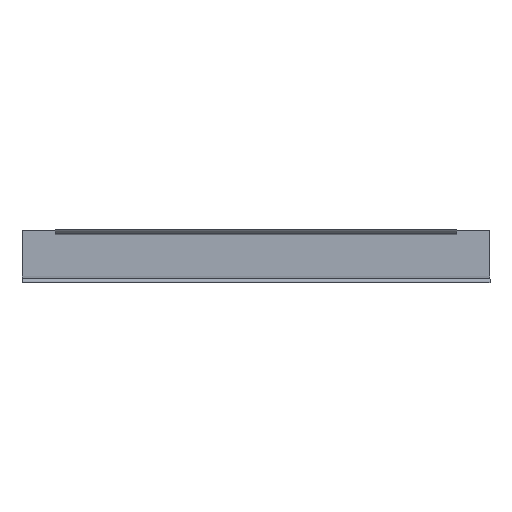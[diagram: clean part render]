
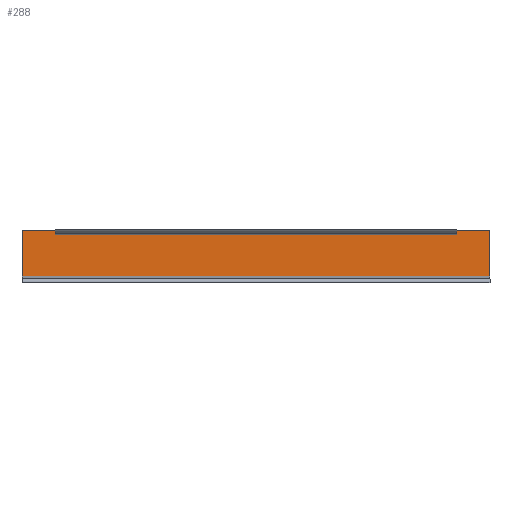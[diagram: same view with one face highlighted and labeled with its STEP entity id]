
A CAD part, left-side view. The second image highlights one B-rep face of the part: STEP entity #288.
In plain terms, the highlighted planar face has unit normal (-1, 0, 0).
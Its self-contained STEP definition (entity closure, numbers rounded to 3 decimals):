
#20 = DIRECTION ( 'NONE',  ( 0., 0., -1. ) ) ;
#21 = CARTESIAN_POINT ( 'NONE',  ( 6.024, 479.5, -8.71 ) ) ;
#29 = DIRECTION ( 'NONE',  ( 0., 0., 1. ) ) ;
#30 = CARTESIAN_POINT ( 'NONE',  ( 6.024, 34., -2.932 ) ) ;
#45 = CARTESIAN_POINT ( 'NONE',  ( 6.024, 34., -4.106 ) ) ;
#54 = VERTEX_POINT ( 'NONE', #264 ) ;
#56 = CARTESIAN_POINT ( 'NONE',  ( 6.024, 479.5, -4.106 ) ) ;
#58 = CARTESIAN_POINT ( 'NONE',  ( 6.024, 445.5, -8.71 ) ) ;
#66 = VERTEX_POINT ( 'NONE', #56 ) ;
#68 = CARTESIAN_POINT ( 'NONE',  ( 6.024, 479.5, -8.71 ) ) ;
#70 = CARTESIAN_POINT ( 'NONE',  ( 6.024, 479.5, -51.31 ) ) ;
#78 = DIRECTION ( 'NONE',  ( 0., -1., 0. ) ) ;
#82 = CARTESIAN_POINT ( 'NONE',  ( 6.024, 0., -4.106 ) ) ;
#84 = CARTESIAN_POINT ( 'NONE',  ( 6.024, 34., -8.71 ) ) ;
#118 = CARTESIAN_POINT ( 'NONE',  ( 6.024, 479.5, -9.925 ) ) ;
#133 = PLANE ( 'NONE',  #572 ) ;
#140 = DIRECTION ( 'NONE',  ( 0., 0., -1. ) ) ;
#151 = VERTEX_POINT ( 'NONE', #45 ) ;
#154 = DIRECTION ( 'NONE',  ( -1., 0., 0. ) ) ;
#175 = VERTEX_POINT ( 'NONE', #176 ) ;
#176 = CARTESIAN_POINT ( 'NONE',  ( 6.024, 445.5, -4.106 ) ) ;
#182 = VERTEX_POINT ( 'NONE', #70 ) ;
#212 = VECTOR ( 'NONE', #508, 1000. ) ;
#223 = LINE ( 'NONE', #512, #212 ) ;
#224 = VECTOR ( 'NONE', #539, 1000. ) ;
#225 = LINE ( 'NONE', #537, #226 ) ;
#226 = VECTOR ( 'NONE', #536, 1000. ) ;
#229 = LINE ( 'NONE', #541, #224 ) ;
#258 = VERTEX_POINT ( 'NONE', #58 ) ;
#262 = VERTEX_POINT ( 'NONE', #82 ) ;
#264 = CARTESIAN_POINT ( 'NONE',  ( 6.024, 0., -51.31 ) ) ;
#270 = VERTEX_POINT ( 'NONE', #84 ) ;
#288 = ADVANCED_FACE ( 'NONE', ( #440 ), #133, .T. ) ;
#297 = EDGE_LOOP ( 'NONE', ( #298, #360, #370, #350, #364, #355, #372, #371 ) ) ;
#298 = ORIENTED_EDGE ( 'NONE', *, *, #596, .F. ) ;
#350 = ORIENTED_EDGE ( 'NONE', *, *, #562, .F. ) ;
#355 = ORIENTED_EDGE ( 'NONE', *, *, #593, .T. ) ;
#360 = ORIENTED_EDGE ( 'NONE', *, *, #607, .T. ) ;
#364 = ORIENTED_EDGE ( 'NONE', *, *, #612, .F. ) ;
#370 = ORIENTED_EDGE ( 'NONE', *, *, #575, .F. ) ;
#371 = ORIENTED_EDGE ( 'NONE', *, *, #608, .T. ) ;
#372 = ORIENTED_EDGE ( 'NONE', *, *, #580, .T. ) ;
#440 = FACE_OUTER_BOUND ( 'NONE', #297, .T. ) ;
#453 = LINE ( 'NONE', #68, #460 ) ;
#460 = VECTOR ( 'NONE', #78, 1000. ) ;
#475 = LINE ( 'NONE', #30, #476 ) ;
#476 = VECTOR ( 'NONE', #29, 1000. ) ;
#479 = LINE ( 'NONE', #21, #480 ) ;
#480 = VECTOR ( 'NONE', #20, 1000. ) ;
#494 = LINE ( 'NONE', #530, #495 ) ;
#495 = VECTOR ( 'NONE', #529, 1000. ) ;
#500 = LINE ( 'NONE', #523, #501 ) ;
#501 = VECTOR ( 'NONE', #522, 1000. ) ;
#508 = DIRECTION ( 'NONE',  ( 0., 0., -1. ) ) ;
#512 = CARTESIAN_POINT ( 'NONE',  ( 6.024, 445.5, -2.932 ) ) ;
#522 = DIRECTION ( 'NONE',  ( 0., 0., -1. ) ) ;
#523 = CARTESIAN_POINT ( 'NONE',  ( 6.024, 0., -9.925 ) ) ;
#529 = DIRECTION ( 'NONE',  ( 0., 1., 0. ) ) ;
#530 = CARTESIAN_POINT ( 'NONE',  ( 6.024, 479.5, -4.106 ) ) ;
#536 = DIRECTION ( 'NONE',  ( 0., -1., 0. ) ) ;
#537 = CARTESIAN_POINT ( 'NONE',  ( 6.024, 479.5, -51.31 ) ) ;
#539 = DIRECTION ( 'NONE',  ( 0., 1., 0. ) ) ;
#541 = CARTESIAN_POINT ( 'NONE',  ( 6.024, 479.5, -4.106 ) ) ;
#562 = EDGE_CURVE ( 'NONE', #258, #270, #453, .T. ) ;
#572 = AXIS2_PLACEMENT_3D ( 'NONE', #118, #154, #140 ) ;
#575 = EDGE_CURVE ( 'NONE', #270, #151, #475, .T. ) ;
#580 = EDGE_CURVE ( 'NONE', #66, #182, #479, .T. ) ;
#593 = EDGE_CURVE ( 'NONE', #175, #66, #494, .T. ) ;
#596 = EDGE_CURVE ( 'NONE', #262, #54, #500, .T. ) ;
#607 = EDGE_CURVE ( 'NONE', #262, #151, #229, .T. ) ;
#608 = EDGE_CURVE ( 'NONE', #182, #54, #225, .T. ) ;
#612 = EDGE_CURVE ( 'NONE', #175, #258, #223, .T. ) ;
